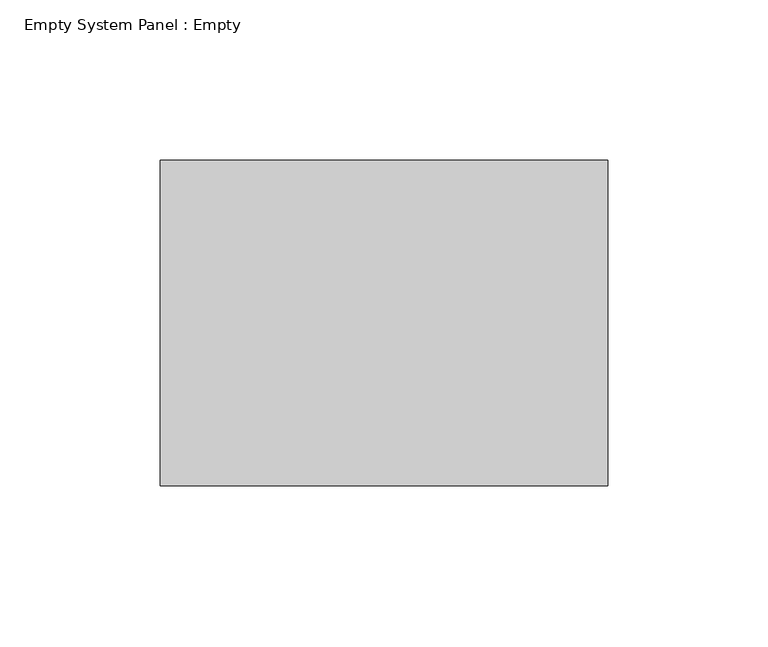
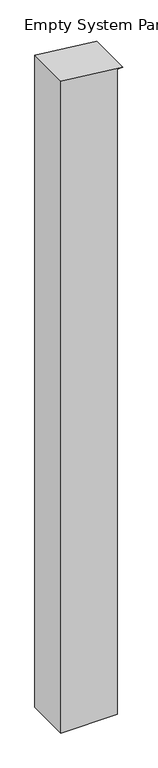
"""IFC4 building model written with IfcOpenShell, lengths in millimetres: plate geometry, Empty System Panel : Empty."""

from ifc_helpers import new_model, si_unit, frame, origin, place, context, project, spatial, polyline, outline, extrude, source, transform, mapped, element, save


def empty_system_panel_empty_a1c22da3(model_context):
    return source(origin(), model_context, "Body", "SweptSolid", [
        extrude(outline(polyline([(0.0, -69.85), (0.0, 57.15), (1536.7965912, 57.15), (1536.7965912, 69.85), (1552.4217812, -69.85), (0.0, -69.85)])), frame((0.0, -50.8, 0.0), z_axis=(0.0, 1.0, 0.0), x_axis=(0.0, 0.0, 1.0)), (0.0, 0.0, 1.0), 101.6),
    ])


if __name__ == "__main__":
    model = new_model("IFC4")
    model_context = context("Model", 3, world=origin())
    ifc_project = project(units=[si_unit("LENGTHUNIT", "METRE", prefix="MILLI")], contexts=[model_context])
    site = spatial("IfcSite", under=ifc_project)
    building = spatial("IfcBuilding", under=site)
    placement = place(None, origin())
    empty_system_panel_empty_shape = empty_system_panel_empty_a1c22da3(model_context)
    element("IfcPlate", 1, ObjectType="Empty System Panel : Empty", at=placement, inside=building, context=model_context, shape_type="MappedRepresentation", body=[
        mapped(empty_system_panel_empty_shape, transform((0.0, 0.0, 0.0), x_axis=(1.0, 0.0, 0.0), y_axis=(0.0, 1.0, 0.0), z_axis=(0.0, 0.0, 1.0))),
    ])
    save(model, "model.ifc")
